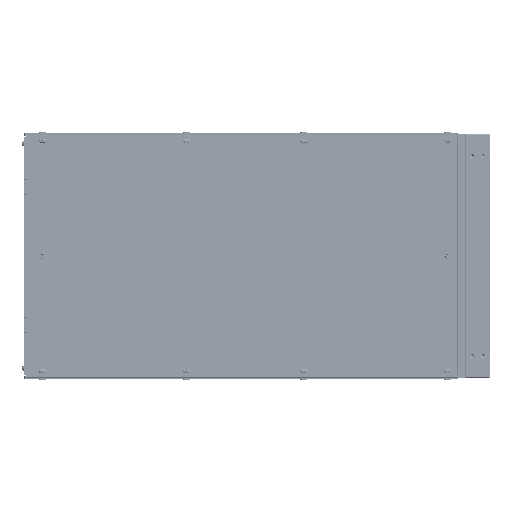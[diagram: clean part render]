
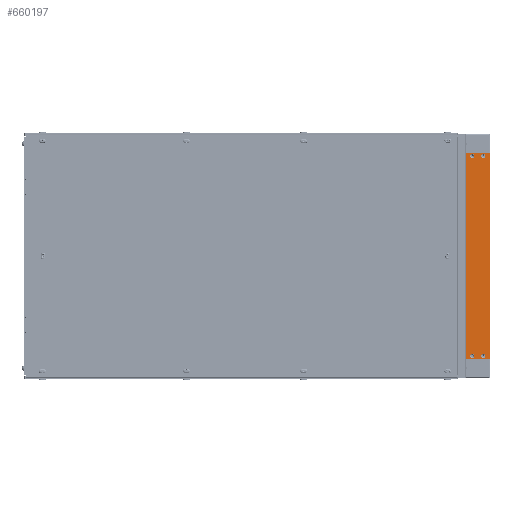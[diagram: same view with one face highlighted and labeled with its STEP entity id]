
A CAD part, left-side view. The second image highlights one B-rep face of the part: STEP entity #660197.
In plain terms, the highlighted planar face has unit normal (-1, 0, 0) as drawn and (0, -1, 0) by its records, which use the part's own axes.
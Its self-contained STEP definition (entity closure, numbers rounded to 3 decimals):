
#15531 = VERTEX_POINT ( 'NONE', #137880 ) ;
#17021 = EDGE_CURVE ( 'NONE', #187306, #141134, #760569, .T. ) ;
#22646 = CARTESIAN_POINT ( 'NONE',  ( 11.025, 0., -25.25 ) ) ;
#33658 = CIRCLE ( 'NONE', #806728, 8.246 ) ;
#33854 = DIRECTION ( 'NONE',  ( 0., -1., 0. ) ) ;
#37898 = ORIENTED_EDGE ( 'NONE', *, *, #506823, .F. ) ;
#45582 = CARTESIAN_POINT ( 'NONE',  ( 841.04, 0., 0. ) ) ;
#53819 = FACE_BOUND ( 'NONE', #798957, .T. ) ;
#54734 = CARTESIAN_POINT ( 'NONE',  ( 11.025, 0., -71.25 ) ) ;
#58427 = VECTOR ( 'NONE', #774356, 1000. ) ;
#59640 = EDGE_CURVE ( 'NONE', #127428, #267787, #168697, .T. ) ;
#64270 = VERTEX_POINT ( 'NONE', #234227 ) ;
#67942 = DIRECTION ( 'NONE',  ( 0., 0., 1. ) ) ;
#92462 = CIRCLE ( 'NONE', #538156, 8.246 ) ;
#95618 = VERTEX_POINT ( 'NONE', #652697 ) ;
#103259 = FACE_BOUND ( 'NONE', #350871, .T. ) ;
#115394 = DIRECTION ( 'NONE',  ( 0., 0., -1. ) ) ;
#117468 = VERTEX_POINT ( 'NONE', #176219 ) ;
#127428 = VERTEX_POINT ( 'NONE', #557929 ) ;
#132724 = DIRECTION ( 'NONE',  ( 1., 0., 0. ) ) ;
#137880 = CARTESIAN_POINT ( 'NONE',  ( 0., 0., 0. ) ) ;
#141134 = VERTEX_POINT ( 'NONE', #418657 ) ;
#144760 = EDGE_LOOP ( 'NONE', ( #641208, #629789 ) ) ;
#148099 = EDGE_CURVE ( 'NONE', #697937, #95618, #427079, .T. ) ;
#168697 = LINE ( 'NONE', #45582, #716210 ) ;
#176219 = CARTESIAN_POINT ( 'NONE',  ( 830.015, 0., -79.993 ) ) ;
#177374 = AXIS2_PLACEMENT_3D ( 'NONE', #54734, #805444, #608715 ) ;
#180153 = ORIENTED_EDGE ( 'NONE', *, *, #415185, .F. ) ;
#187306 = VERTEX_POINT ( 'NONE', #664115 ) ;
#202216 = CIRCLE ( 'NONE', #346235, 8.743 ) ;
#234227 = CARTESIAN_POINT ( 'NONE',  ( 830.015, 0., -33.496 ) ) ;
#236155 = CARTESIAN_POINT ( 'NONE',  ( 830.015, 0., -71.25 ) ) ;
#248774 = LINE ( 'NONE', #314289, #801171 ) ;
#255785 = CIRCLE ( 'NONE', #177374, 8.743 ) ;
#255833 = CARTESIAN_POINT ( 'NONE',  ( 0., 0., 0. ) ) ;
#267787 = VERTEX_POINT ( 'NONE', #460370 ) ;
#274945 = EDGE_CURVE ( 'NONE', #95618, #697937, #255785, .T. ) ;
#281035 = ORIENTED_EDGE ( 'NONE', *, *, #292786, .F. ) ;
#292786 = EDGE_CURVE ( 'NONE', #626685, #15531, #643157, .T. ) ;
#295983 = DIRECTION ( 'NONE',  ( 0., -1., 0. ) ) ;
#299555 = CIRCLE ( 'NONE', #731785, 8.743 ) ;
#314289 = CARTESIAN_POINT ( 'NONE',  ( 0., 0., -96.5 ) ) ;
#331183 = ORIENTED_EDGE ( 'NONE', *, *, #810856, .F. ) ;
#337544 = CARTESIAN_POINT ( 'NONE',  ( 830.015, 0., -71.25 ) ) ;
#345640 = DIRECTION ( 'NONE',  ( 0., -1., 0. ) ) ;
#346235 = AXIS2_PLACEMENT_3D ( 'NONE', #337544, #345640, #599985 ) ;
#350871 = EDGE_LOOP ( 'NONE', ( #525138, #352241 ) ) ;
#352241 = ORIENTED_EDGE ( 'NONE', *, *, #17021, .F. ) ;
#353447 = CARTESIAN_POINT ( 'NONE',  ( 0., 0., -96.5 ) ) ;
#362869 = ORIENTED_EDGE ( 'NONE', *, *, #440909, .F. ) ;
#364407 = ORIENTED_EDGE ( 'NONE', *, *, #722015, .F. ) ;
#371274 = DIRECTION ( 'NONE',  ( 0., -1., 0. ) ) ;
#378734 = CARTESIAN_POINT ( 'NONE',  ( 830.015, 0., -62.507 ) ) ;
#379648 = CARTESIAN_POINT ( 'NONE',  ( 830.015, 0., -25.25 ) ) ;
#410579 = AXIS2_PLACEMENT_3D ( 'NONE', #22646, #535273, #527245 ) ;
#415185 = EDGE_CURVE ( 'NONE', #715869, #117468, #202216, .T. ) ;
#418448 = ORIENTED_EDGE ( 'NONE', *, *, #59640, .F. ) ;
#418657 = CARTESIAN_POINT ( 'NONE',  ( 11.025, 0., -33.496 ) ) ;
#427079 = CIRCLE ( 'NONE', #519078, 8.743 ) ;
#429127 = DIRECTION ( 'NONE',  ( 0., -1., 0. ) ) ;
#436917 = CIRCLE ( 'NONE', #410579, 8.246 ) ;
#438225 = CARTESIAN_POINT ( 'NONE',  ( 11.025, 0., -62.507 ) ) ;
#440909 = EDGE_CURVE ( 'NONE', #117468, #715869, #299555, .T. ) ;
#447155 = AXIS2_PLACEMENT_3D ( 'NONE', #353447, #295983, #115394 ) ;
#452387 = EDGE_CURVE ( 'NONE', #141134, #187306, #436917, .T. ) ;
#460370 = CARTESIAN_POINT ( 'NONE',  ( 841.04, 0., -96.5 ) ) ;
#462098 = EDGE_CURVE ( 'NONE', #15531, #127428, #609006, .T. ) ;
#484666 = FACE_BOUND ( 'NONE', #519174, .T. ) ;
#492111 = VERTEX_POINT ( 'NONE', #559557 ) ;
#498999 = DIRECTION ( 'NONE',  ( -1., 0., 0. ) ) ;
#506823 = EDGE_CURVE ( 'NONE', #492111, #64270, #92462, .T. ) ;
#519078 = AXIS2_PLACEMENT_3D ( 'NONE', #595940, #33854, #526308 ) ;
#519174 = EDGE_LOOP ( 'NONE', ( #180153, #362869 ) ) ;
#525138 = ORIENTED_EDGE ( 'NONE', *, *, #452387, .F. ) ;
#526308 = DIRECTION ( 'NONE',  ( 0., 0., -1. ) ) ;
#527245 = DIRECTION ( 'NONE',  ( 0., 0., -1. ) ) ;
#535273 = DIRECTION ( 'NONE',  ( 0., -1., 0. ) ) ;
#538156 = AXIS2_PLACEMENT_3D ( 'NONE', #657755, #723325, #600281 ) ;
#557929 = CARTESIAN_POINT ( 'NONE',  ( 841.04, 0., 0. ) ) ;
#559557 = CARTESIAN_POINT ( 'NONE',  ( 830.015, 0., -17.004 ) ) ;
#560005 = DIRECTION ( 'NONE',  ( 0., 0., 1. ) ) ;
#595940 = CARTESIAN_POINT ( 'NONE',  ( 11.025, 0., -71.25 ) ) ;
#599985 = DIRECTION ( 'NONE',  ( 0., 0., 1. ) ) ;
#600281 = DIRECTION ( 'NONE',  ( 0., 0., 1. ) ) ;
#603663 = AXIS2_PLACEMENT_3D ( 'NONE', #765606, #638450, #699958 ) ;
#607830 = FACE_OUTER_BOUND ( 'NONE', #634382, .T. ) ;
#608715 = DIRECTION ( 'NONE',  ( 0., 0., -1. ) ) ;
#609006 = LINE ( 'NONE', #255833, #681456 ) ;
#623733 = DIRECTION ( 'NONE',  ( 0., 0., -1. ) ) ;
#626685 = VERTEX_POINT ( 'NONE', #630642 ) ;
#629789 = ORIENTED_EDGE ( 'NONE', *, *, #148099, .F. ) ;
#630642 = CARTESIAN_POINT ( 'NONE',  ( 0., 0., -96.5 ) ) ;
#634382 = EDGE_LOOP ( 'NONE', ( #281035, #364407, #418448, #735254 ) ) ;
#638450 = DIRECTION ( 'NONE',  ( 0., -1., 0. ) ) ;
#641208 = ORIENTED_EDGE ( 'NONE', *, *, #274945, .F. ) ;
#643157 = LINE ( 'NONE', #770314, #58427 ) ;
#652697 = CARTESIAN_POINT ( 'NONE',  ( 11.025, 0., -79.993 ) ) ;
#657755 = CARTESIAN_POINT ( 'NONE',  ( 830.015, 0., -25.25 ) ) ;
#660197 = ADVANCED_FACE ( 'NONE', ( #484666, #53819, #607830, #103259, #677379 ), #673370, .T. ) ;
#664115 = CARTESIAN_POINT ( 'NONE',  ( 11.025, 0., -17.004 ) ) ;
#673370 = PLANE ( 'NONE',  #447155 ) ;
#677379 = FACE_BOUND ( 'NONE', #144760, .T. ) ;
#681456 = VECTOR ( 'NONE', #132724, 1000. ) ;
#697937 = VERTEX_POINT ( 'NONE', #438225 ) ;
#699958 = DIRECTION ( 'NONE',  ( 0., 0., -1. ) ) ;
#715869 = VERTEX_POINT ( 'NONE', #378734 ) ;
#716210 = VECTOR ( 'NONE', #623733, 1000. ) ;
#722015 = EDGE_CURVE ( 'NONE', #267787, #626685, #248774, .T. ) ;
#723325 = DIRECTION ( 'NONE',  ( 0., -1., 0. ) ) ;
#731785 = AXIS2_PLACEMENT_3D ( 'NONE', #236155, #371274, #560005 ) ;
#735254 = ORIENTED_EDGE ( 'NONE', *, *, #462098, .F. ) ;
#760569 = CIRCLE ( 'NONE', #603663, 8.246 ) ;
#765606 = CARTESIAN_POINT ( 'NONE',  ( 11.025, 0., -25.25 ) ) ;
#770314 = CARTESIAN_POINT ( 'NONE',  ( 0., 0., 0. ) ) ;
#774356 = DIRECTION ( 'NONE',  ( 0., 0., 1. ) ) ;
#798957 = EDGE_LOOP ( 'NONE', ( #37898, #331183 ) ) ;
#801171 = VECTOR ( 'NONE', #498999, 1000. ) ;
#805444 = DIRECTION ( 'NONE',  ( 0., -1., 0. ) ) ;
#806728 = AXIS2_PLACEMENT_3D ( 'NONE', #379648, #429127, #67942 ) ;
#810856 = EDGE_CURVE ( 'NONE', #64270, #492111, #33658, .T. ) ;
